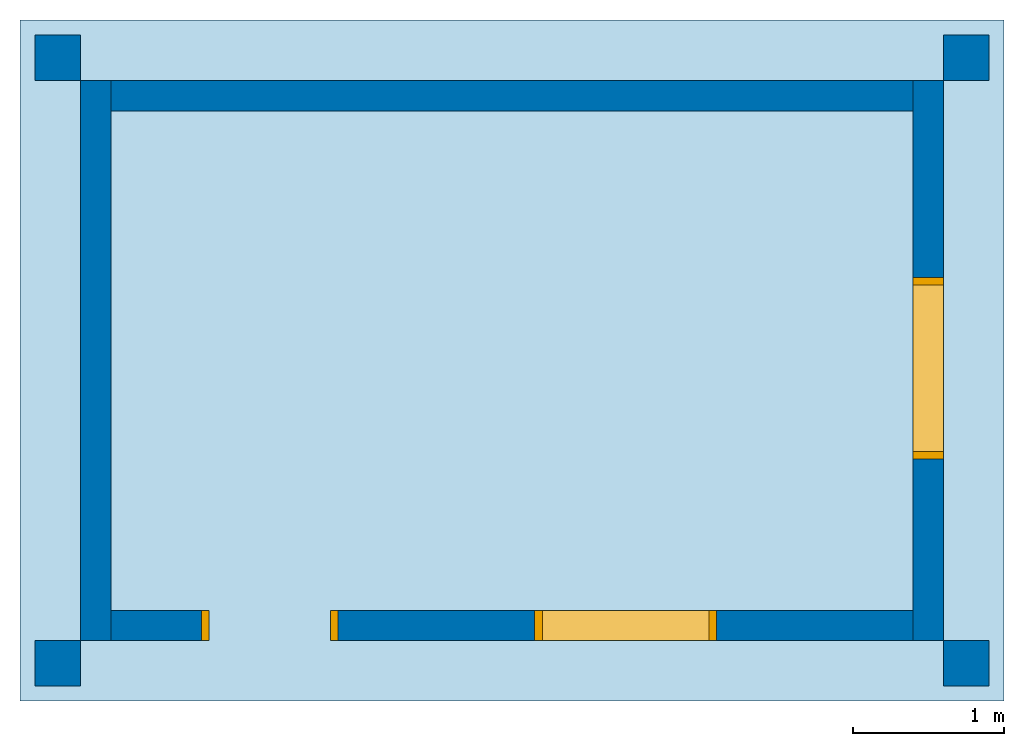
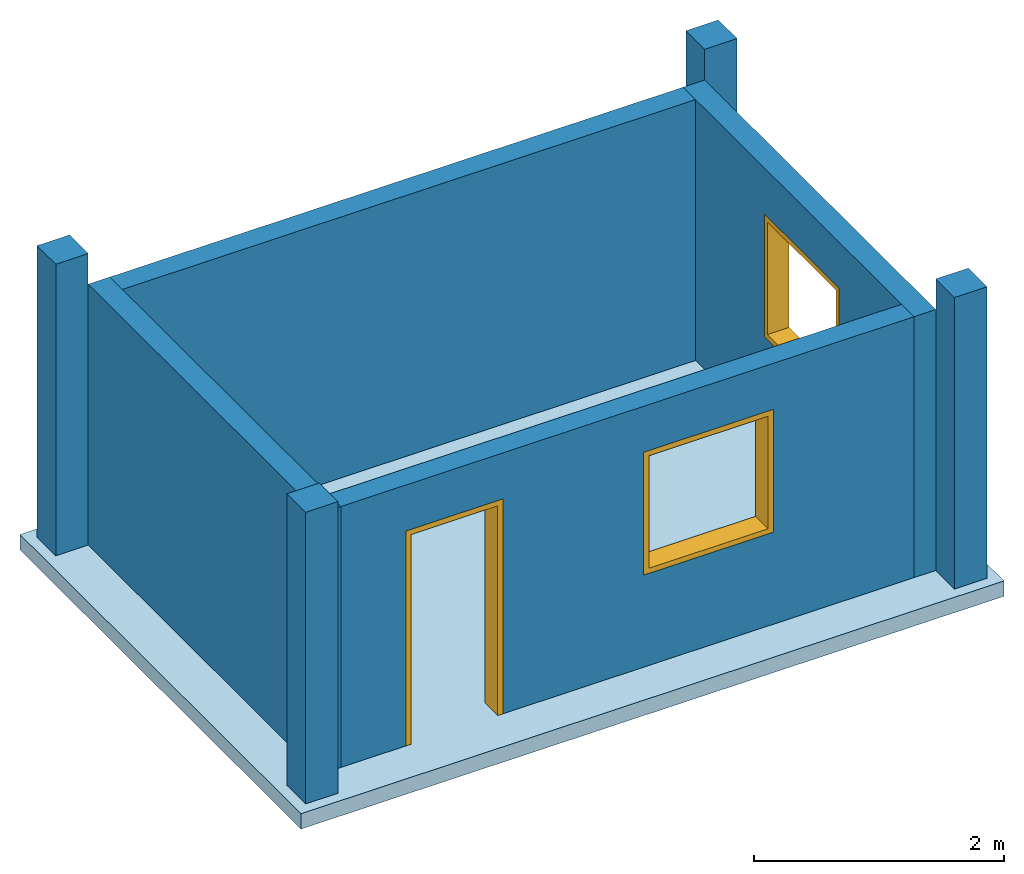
# One storey: 4 columns, 4 walls, 2 windows, 1 door, 1 slab, 3 openings.
"""IFC4 building model written with IfcOpenShell, lengths in metres."""

from ifc_helpers import new_model, si_unit, frame, origin_with_axes, place, context, subcontext, project, spatial, polyline, outline, extrude, boolean, material, layer, layer_set, layer_usage, type_object, element, fill, save


model = new_model("IFC4")

# Units and contexts
model_context = context("Model", 3, precision=1e-07, world=origin_with_axes())
body_context = subcontext(model_context, "Body", "Model", "MODEL_VIEW")
ifc_project = project(units=[si_unit("LENGTHUNIT", "METRE"), si_unit("AREAUNIT", "SQUARE_METRE"), si_unit("VOLUMEUNIT", "CUBIC_METRE")], contexts=[model_context])

# Site, building, storey
site_placement = place(None, origin_with_axes())
site = spatial("IfcSite", under=ifc_project, at=site_placement, Name="3117 Site", CompositionType="ELEMENT")
building_placement = place(site_placement, origin_with_axes())
building = spatial("IfcBuilding", under=site, at=building_placement, Name="3117 อาคารสองชั้น", CompositionType="ELEMENT")
storey_placement = place(building_placement, origin_with_axes())
storey = spatial("IfcBuildingStorey", under=building, at=storey_placement, Name="L00", CompositionType="ELEMENT", Elevation=0.0)

# Columns
ifc_material_1 = material(Name="Concrete")
column_type = type_object("IfcColumnType", Name="Column 300 x 300", PredefinedType="COLUMN", material=ifc_material_1)
column_1_placement = place(storey_placement, frame((6.0, 4.0, 0.0), z_axis=(0.0, 0.0, 1.0), x_axis=(1.0, 0.0, 0.0)))
element("IfcColumn", 1, at=column_1_placement, inside=storey, type_object=column_type, Name="C13", PredefinedType="COLUMN", context=body_context, shape_type="CSG", body=[
    boolean("DIFFERENCE", extrude(outline(polyline([(0.0, 0.0), (0.3, 0.0), (0.3, 0.3), (0.0, 0.3), (0.0, 0.0)])), frame((-0.15, -0.15, 0.0), z_axis=(0.0, 0.0, 1.0), x_axis=(1.0, 0.0, 0.0)), (0.0, 0.0, 1.0), 3.0), extrude(outline(polyline([(-6.25, -4.25), (0.25, -4.25), (0.25, 0.25), (-6.25, 0.25), (-6.25, -4.25)])), frame((0.0, 0.0, 2.85), z_axis=(0.0, 0.0, 1.0), x_axis=(1.0, 0.0, 0.0)), (0.0, 0.0, 1.0), 0.15)),
])
column_2_placement = place(storey_placement, origin_with_axes())
element("IfcColumn", 2, at=column_2_placement, inside=storey, type_object=column_type, Name="C11", PredefinedType="COLUMN", context=body_context, shape_type="CSG", body=[
    boolean("DIFFERENCE", extrude(outline(polyline([(0.0, 0.0), (0.3, 0.0), (0.3, 0.3), (0.0, 0.3), (0.0, 0.0)])), frame((-0.15, -0.15, 0.0), z_axis=(0.0, 0.0, 1.0), x_axis=(1.0, 0.0, 0.0)), (0.0, 0.0, 1.0), 3.0), extrude(outline(polyline([(-0.25, -0.25), (6.25, -0.25), (6.25, 4.25), (-0.25, 4.25), (-0.25, -0.25)])), frame((0.0, 0.0, 2.85), z_axis=(0.0, 0.0, 1.0), x_axis=(1.0, 0.0, 0.0)), (0.0, 0.0, 1.0), 0.15)),
])
column_3_placement = place(storey_placement, frame((0.0, 4.0, 0.0), z_axis=(0.0, 0.0, 1.0), x_axis=(1.0, 0.0, 0.0)))
element("IfcColumn", 3, at=column_3_placement, inside=storey, type_object=column_type, Name="C14", PredefinedType="COLUMN", context=body_context, shape_type="CSG", body=[
    boolean("DIFFERENCE", extrude(outline(polyline([(0.0, 0.0), (0.3, 0.0), (0.3, 0.3), (0.0, 0.3), (0.0, 0.0)])), frame((-0.15, -0.15, 0.0), z_axis=(0.0, 0.0, 1.0), x_axis=(1.0, 0.0, 0.0)), (0.0, 0.0, 1.0), 3.0), extrude(outline(polyline([(-0.25, -4.25), (6.25, -4.25), (6.25, 0.25), (-0.25, 0.25), (-0.25, -4.25)])), frame((0.0, 0.0, 2.85), z_axis=(0.0, 0.0, 1.0), x_axis=(1.0, 0.0, 0.0)), (0.0, 0.0, 1.0), 0.15)),
])
column_4_placement = place(storey_placement, frame((6.0, 0.0, 0.0), z_axis=(0.0, 0.0, 1.0), x_axis=(1.0, 0.0, 0.0)))
element("IfcColumn", 4, at=column_4_placement, inside=storey, type_object=column_type, Name="C12", PredefinedType="COLUMN", context=body_context, shape_type="CSG", body=[
    boolean("DIFFERENCE", extrude(outline(polyline([(0.0, 0.0), (0.3, 0.0), (0.3, 0.3), (0.0, 0.3), (0.0, 0.0)])), frame((-0.15, -0.15, 0.0), z_axis=(0.0, 0.0, 1.0), x_axis=(1.0, 0.0, 0.0)), (0.0, 0.0, 1.0), 3.0), extrude(outline(polyline([(-6.25, -0.25), (0.25, -0.25), (0.25, 4.25), (-6.25, 4.25), (-6.25, -0.25)])), frame((0.0, 0.0, 2.85), z_axis=(0.0, 0.0, 1.0), x_axis=(1.0, 0.0, 0.0)), (0.0, 0.0, 1.0), 0.15)),
])

# Slab
ifc_material_2 = material(Name="Floor finish")
ifc_layer_1 = layer(ifc_material_2, 0.01, Name="finish", Category="finish")
ifc_material_3 = material(Name="Screed")
ifc_layer_2 = layer(ifc_material_3, 0.04, Name="substrate", Category="substrate")
ifc_layer_3 = layer(ifc_material_1, 0.1, Name="structure", Category="structure")
ifc_layer_set_1 = layer_set([ifc_layer_1, ifc_layer_2, ifc_layer_3], Name="Slab 150 layered")
ifc_layer_usage_1 = layer_usage(ifc_layer_set_1, "AXIS3", "NEGATIVE", 0.15)
slab_type = type_object("IfcSlabType", Name="Slab 150 layered", PredefinedType="FLOOR", material=ifc_layer_set_1)
slab_placement = place(storey_placement, frame((0.0, 0.0, -0.15), z_axis=(0.0, 0.0, 1.0), x_axis=(1.0, 0.0, 0.0)))
element("IfcSlab", 5, at=slab_placement, inside=storey, type_object=slab_type, material=ifc_layer_usage_1, Name="S00", PredefinedType="FLOOR", context=body_context, shape_type="SweptSolid", body=[
    extrude(outline(polyline([(-0.25, -0.25), (6.25, -0.25), (6.25, 4.25), (-0.25, 4.25), (-0.25, -0.25)])), origin_with_axes(), (0.0, 0.0, 1.0), 0.15),
])

# Wall, opening, window
ifc_material_4 = material(Name="Plaster")
ifc_layer_4 = layer(ifc_material_4, 0.015, Name="finish", Category="finish")
ifc_material_5 = material(Name="Masonry")
ifc_layer_5 = layer(ifc_material_5, 0.17, Name="core", Category="core")
ifc_layer_6 = layer(ifc_material_4, 0.015, Name="finish", Category="finish")
ifc_layer_set_2 = layer_set([ifc_layer_4, ifc_layer_5, ifc_layer_6], Name="Wall 200 layered")
ifc_layer_usage_2 = layer_usage(ifc_layer_set_2, "AXIS2", "POSITIVE", 0.0)
wall_type = type_object("IfcWallType", Name="Wall 200 layered", PredefinedType="STANDARD", material=ifc_layer_set_2)
wall_1_placement = place(storey_placement, frame((5.85, 0.15, 0.0), z_axis=(0.0, 0.0, 1.0), x_axis=(0.0, 1.0, 0.0)))
wall_1 = element("IfcWall", 6, at=wall_1_placement, inside=storey, type_object=wall_type, material=ifc_layer_usage_2, Name="Wall 1-2", PredefinedType="STANDARD", context=body_context, shape_type="SweptSolid", body=[
    extrude(outline(polyline([(0.0, 0.0), (3.7, 0.0), (3.7, 0.2), (0.0, 0.2), (0.0, 0.0)])), origin_with_axes(), (0.0, 0.0, 1.0), 2.55),
])
opening_1_placement = place(wall_1_placement, frame((1.2, -1e-06, 0.9), z_axis=(0.0, 0.0, 1.0), x_axis=(1.0, 0.0, 0.0)))
opening_1 = element("IfcOpeningElement", 7, at=opening_1_placement, cuts=wall_1, Name="Opening — WIN12", PredefinedType="OPENING", context=body_context, shape_type="SweptSolid", body=[
    extrude(outline(polyline([(0.0, 0.0), (1.2, 0.0), (1.2, 0.200002), (0.0, 0.200002), (0.0, 0.0)])), origin_with_axes(), (0.0, 0.0, 1.0), 1.2),
])
ifc_material_6 = material(Name="Aluminium frame")
window_type = type_object("IfcWindowType", Name="Window 1200 x 1200", ParameterTakesPrecedence=False, PartitioningType="NOTDEFINED", PredefinedType="WINDOW", material=ifc_material_6)
window_1_placement = place(opening_1_placement, frame((0.0, 1e-06, 0.0), z_axis=(0.0, 0.0, 1.0), x_axis=(1.0, 0.0, 0.0)))
window_1 = element("IfcWindow", 8, at=window_1_placement, inside=storey, type_object=window_type, Name="WIN12", OverallHeight=1.2, OverallWidth=1.2, PartitioningType="NOTDEFINED", PredefinedType="WINDOW", context=body_context, shape_type="SweptSolid", body=[
    extrude(outline(polyline([(0.0, 0.0), (0.05, 0.0), (0.05, 0.2), (0.0, 0.2), (0.0, 0.0)])), origin_with_axes(), (0.0, 0.0, 1.0), 1.2),
    extrude(outline(polyline([(0.0, 0.0), (0.05, 0.0), (0.05, 0.2), (0.0, 0.2), (0.0, 0.0)])), frame((1.15, 0.0, 0.0), z_axis=(0.0, 0.0, 1.0), x_axis=(1.0, 0.0, 0.0)), (0.0, 0.0, 1.0), 1.2),
    extrude(outline(polyline([(0.0, 0.0), (1.1, 0.0), (1.1, 0.2), (0.0, 0.2), (0.0, 0.0)])), frame((0.05, 0.0, 0.0), z_axis=(0.0, 0.0, 1.0), x_axis=(1.0, 0.0, 0.0)), (0.0, 0.0, 1.0), 0.05),
    extrude(outline(polyline([(0.0, 0.0), (1.1, 0.0), (1.1, 0.2), (0.0, 0.2), (0.0, 0.0)])), frame((0.05, 0.0, 1.15), z_axis=(0.0, 0.0, 1.0), x_axis=(1.0, 0.0, 0.0)), (0.0, 0.0, 1.0), 0.05),
])
fill(opening_1, window_1)

# Wall, openings, door, window
ifc_layer_usage_3 = layer_usage(ifc_layer_set_2, "AXIS2", "POSITIVE", 0.0)
wall_2_placement = place(storey_placement, frame((0.15, 0.15, 0.0), z_axis=(0.0, 0.0, 1.0), x_axis=(1.0, 0.0, 0.0)))
wall_2 = element("IfcWall", 9, at=wall_2_placement, inside=storey, type_object=wall_type, material=ifc_layer_usage_3, Name="Wall 1-1", PredefinedType="STANDARD", context=body_context, shape_type="SweptSolid", body=[
    extrude(outline(polyline([(0.0, 0.0), (5.7, 0.0), (5.7, 0.2), (0.0, 0.2), (0.0, 0.0)])), origin_with_axes(), (0.0, 0.0, 1.0), 2.55),
])
opening_2_placement = place(wall_2_placement, frame((0.8, -1e-06, 0.0), z_axis=(0.0, 0.0, 1.0), x_axis=(1.0, 0.0, 0.0)))
opening_2 = element("IfcOpeningElement", 10, at=opening_2_placement, cuts=wall_2, Name="Opening — D01", PredefinedType="OPENING", context=body_context, shape_type="SweptSolid", body=[
    extrude(outline(polyline([(0.0, 0.0), (0.9, 0.0), (0.9, 0.200002), (0.0, 0.200002), (0.0, 0.0)])), origin_with_axes(), (0.0, 0.0, 1.0), 2.1),
])
opening_3_placement = place(wall_2_placement, frame((3.0, -1e-06, 0.9), z_axis=(0.0, 0.0, 1.0), x_axis=(1.0, 0.0, 0.0)))
opening_3 = element("IfcOpeningElement", 11, at=opening_3_placement, cuts=wall_2, Name="Opening — WIN11", PredefinedType="OPENING", context=body_context, shape_type="SweptSolid", body=[
    extrude(outline(polyline([(0.0, 0.0), (1.2, 0.0), (1.2, 0.200002), (0.0, 0.200002), (0.0, 0.0)])), origin_with_axes(), (0.0, 0.0, 1.0), 1.2),
])
ifc_material_7 = material(Name="Timber frame")
door_type = type_object("IfcDoorType", Name="Door 900 x 2100", OperationType="NOTDEFINED", ParameterTakesPrecedence=False, PredefinedType="DOOR", material=ifc_material_7)
door_placement = place(opening_2_placement, frame((0.0, 1e-06, 0.0), z_axis=(0.0, 0.0, 1.0), x_axis=(1.0, 0.0, 0.0)))
door = element("IfcDoor", 12, at=door_placement, inside=storey, type_object=door_type, Name="D01", OperationType="NOTDEFINED", OverallHeight=2.1, OverallWidth=0.9, PredefinedType="DOOR", context=body_context, shape_type="SweptSolid", body=[
    extrude(outline(polyline([(0.0, 0.0), (0.05, 0.0), (0.05, 0.2), (0.0, 0.2), (0.0, 0.0)])), origin_with_axes(), (0.0, 0.0, 1.0), 2.05),
    extrude(outline(polyline([(0.0, 0.0), (0.05, 0.0), (0.05, 0.2), (0.0, 0.2), (0.0, 0.0)])), frame((0.85, 0.0, 0.0), z_axis=(0.0, 0.0, 1.0), x_axis=(1.0, 0.0, 0.0)), (0.0, 0.0, 1.0), 2.05),
    extrude(outline(polyline([(0.0, 0.0), (0.9, 0.0), (0.9, 0.2), (0.0, 0.2), (0.0, 0.0)])), frame((0.0, 0.0, 2.05), z_axis=(0.0, 0.0, 1.0), x_axis=(1.0, 0.0, 0.0)), (0.0, 0.0, 1.0), 0.05),
])
fill(opening_2, door)
window_2_placement = place(opening_3_placement, frame((0.0, 1e-06, 0.0), z_axis=(0.0, 0.0, 1.0), x_axis=(1.0, 0.0, 0.0)))
window_2 = element("IfcWindow", 13, at=window_2_placement, inside=storey, type_object=window_type, Name="WIN11", OverallHeight=1.2, OverallWidth=1.2, PartitioningType="NOTDEFINED", PredefinedType="WINDOW", context=body_context, shape_type="SweptSolid", body=[
    extrude(outline(polyline([(0.0, 0.0), (0.05, 0.0), (0.05, 0.2), (0.0, 0.2), (0.0, 0.0)])), origin_with_axes(), (0.0, 0.0, 1.0), 1.2),
    extrude(outline(polyline([(0.0, 0.0), (0.05, 0.0), (0.05, 0.2), (0.0, 0.2), (0.0, 0.0)])), frame((1.15, 0.0, 0.0), z_axis=(0.0, 0.0, 1.0), x_axis=(1.0, 0.0, 0.0)), (0.0, 0.0, 1.0), 1.2),
    extrude(outline(polyline([(0.0, 0.0), (1.1, 0.0), (1.1, 0.2), (0.0, 0.2), (0.0, 0.0)])), frame((0.05, 0.0, 0.0), z_axis=(0.0, 0.0, 1.0), x_axis=(1.0, 0.0, 0.0)), (0.0, 0.0, 1.0), 0.05),
    extrude(outline(polyline([(0.0, 0.0), (1.1, 0.0), (1.1, 0.2), (0.0, 0.2), (0.0, 0.0)])), frame((0.05, 0.0, 1.15), z_axis=(0.0, 0.0, 1.0), x_axis=(1.0, 0.0, 0.0)), (0.0, 0.0, 1.0), 0.05),
])
fill(opening_3, window_2)

# Walls
ifc_layer_usage_4 = layer_usage(ifc_layer_set_2, "AXIS2", "POSITIVE", 0.0)
wall_3_placement = place(storey_placement, frame((0.15, 3.85, 0.0), z_axis=(0.0, 0.0, 1.0), x_axis=(0.0, -1.0, 0.0)))
element("IfcWall", 14, at=wall_3_placement, inside=storey, type_object=wall_type, material=ifc_layer_usage_4, Name="Wall 1-4", PredefinedType="STANDARD", context=body_context, shape_type="SweptSolid", body=[
    extrude(outline(polyline([(0.0, 0.0), (3.7, 0.0), (3.7, 0.2), (0.0, 0.2), (0.0, 0.0)])), origin_with_axes(), (0.0, 0.0, 1.0), 2.55),
])
ifc_layer_usage_5 = layer_usage(ifc_layer_set_2, "AXIS2", "POSITIVE", 0.0)
wall_4_placement = place(storey_placement, frame((5.85, 3.85, 0.0), z_axis=(0.0, 0.0, 1.0), x_axis=(-1.0, 0.0, 0.0)))
element("IfcWall", 15, at=wall_4_placement, inside=storey, type_object=wall_type, material=ifc_layer_usage_5, Name="Wall 1-3", PredefinedType="STANDARD", context=body_context, shape_type="SweptSolid", body=[
    extrude(outline(polyline([(0.0, 0.0), (5.7, 0.0), (5.7, 0.2), (0.0, 0.2), (0.0, 0.0)])), origin_with_axes(), (0.0, 0.0, 1.0), 2.55),
])

save(model, "model.ifc")
